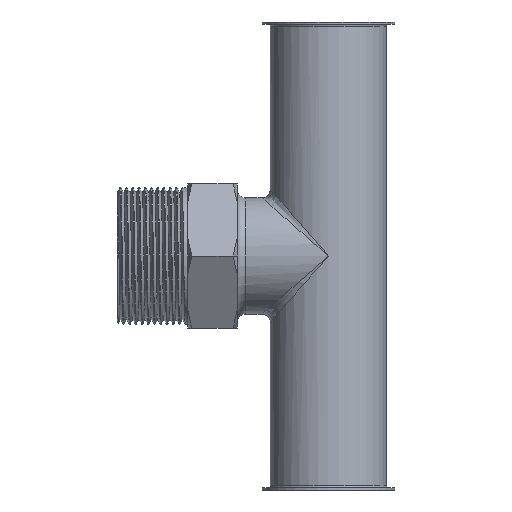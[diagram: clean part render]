
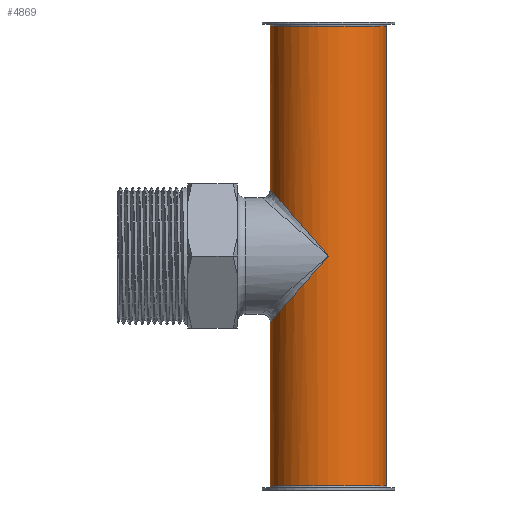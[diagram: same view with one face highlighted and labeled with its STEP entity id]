
A CAD part, front view. The second image highlights one B-rep face of the part: STEP entity #4869.
In plain terms, the highlighted cylindrical face has radius 14.01 mm (diameter 28.02 mm), a partial arc.
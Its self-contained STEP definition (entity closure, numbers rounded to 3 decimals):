
#48 = EDGE_CURVE ( 'NONE', #2402, #4963, #1961, .T. ) ;
#86 = EDGE_CURVE ( 'NONE', #525, #806, #3972, .T. ) ;
#427 = VERTEX_POINT ( 'NONE', #2119 ) ;
#429 = CARTESIAN_POINT ( 'NONE',  ( 0., -14.01, 56.5 ) ) ;
#434 = DIRECTION ( 'NONE',  ( 0., 0., -1. ) ) ;
#489 = AXIS2_PLACEMENT_3D ( 'NONE', #675, #3451, #1074 ) ;
#525 = VERTEX_POINT ( 'NONE', #3833 ) ;
#567 = DIRECTION ( 'NONE',  ( 0., 0., -1. ) ) ;
#632 = ORIENTED_EDGE ( 'NONE', *, *, #86, .F. ) ;
#675 = CARTESIAN_POINT ( 'NONE',  ( 0., 0., 112. ) ) ;
#721 = CARTESIAN_POINT ( 'NONE',  ( 0., 0., 1. ) ) ;
#770 = VECTOR ( 'NONE', #434, 1000. ) ;
#806 = VERTEX_POINT ( 'NONE', #2679 ) ;
#813 = EDGE_CURVE ( 'NONE', #2698, #806, #1242, .T. ) ;
#828 = CARTESIAN_POINT ( 'NONE',  ( -8.207, -14.01, 47.122 ) ) ;
#895 = VECTOR ( 'NONE', #1215, 1000. ) ;
#974 = CIRCLE ( 'NONE', #489, 14.01 ) ;
#1074 = DIRECTION ( 'NONE',  ( -1., 0., 0. ) ) ;
#1128 = DIRECTION ( 'NONE',  ( 1., 0., 0. ) ) ;
#1215 = DIRECTION ( 'NONE',  ( 0., 0., -1. ) ) ;
#1242 = CIRCLE ( 'NONE', #2636, 14.01 ) ;
#1314 = ORIENTED_EDGE ( 'NONE', *, *, #3507, .T. ) ;
#1318 = EDGE_CURVE ( 'NONE', #427, #2698, #2358, .T. ) ;
#1392 = CARTESIAN_POINT ( 'NONE',  ( -14.01, 0., 1. ) ) ;
#1427 = ORIENTED_EDGE ( 'NONE', *, *, #813, .T. ) ;
#1557 = CARTESIAN_POINT ( 'NONE',  ( -14.01, 0., 72.51 ) ) ;
#1628 = CARTESIAN_POINT ( 'NONE',  ( 14.01, 0., 113. ) ) ;
#1656 = CARTESIAN_POINT ( 'NONE',  ( -14.01, 0., 40.49 ) ) ;
#1660 = CARTESIAN_POINT ( 'NONE',  ( -8.207, -14.01, 65.878 ) ) ;
#1885 = VERTEX_POINT ( 'NONE', #4837 ) ;
#1961 = LINE ( 'NONE', #3589, #895 ) ;
#2119 = CARTESIAN_POINT ( 'NONE',  ( -14.01, 0., 40.49 ) ) ;
#2147 = CARTESIAN_POINT ( 'NONE',  ( -14.01, 0., 113. ) ) ;
#2265 = EDGE_LOOP ( 'NONE', ( #632, #1314, #4386, #2290, #2867, #4587, #1427 ) ) ;
#2272 = VECTOR ( 'NONE', #567, 1000. ) ;
#2290 = ORIENTED_EDGE ( 'NONE', *, *, #5155, .T. ) ;
#2358 = LINE ( 'NONE', #2147, #2272 ) ;
#2402 = VERTEX_POINT ( 'NONE', #4021 ) ;
#2636 = AXIS2_PLACEMENT_3D ( 'NONE', #721, #3499, #1128 ) ;
#2679 = CARTESIAN_POINT ( 'NONE',  ( 14.01, 0., 1. ) ) ;
#2698 = VERTEX_POINT ( 'NONE', #1392 ) ;
#2819 = CARTESIAN_POINT ( 'NONE',  ( -14.01, 0., 72.51 ) ) ;
#2867 = ORIENTED_EDGE ( 'NONE', *, *, #3134, .T. ) ;
#3051 = FACE_OUTER_BOUND ( 'NONE', #2265, .T. ) ;
#3134 = EDGE_CURVE ( 'NONE', #1885, #427, #4017, .T. ) ;
#3224 = CARTESIAN_POINT ( 'NONE',  ( -14.01, -8.207, 72.51 ) ) ;
#3451 = DIRECTION ( 'NONE',  ( 0., 0., -1. ) ) ;
#3479 = DIRECTION ( 'NONE',  ( 0., 0., -1. ) ) ;
#3499 = DIRECTION ( 'NONE',  ( 0., 0., 1. ) ) ;
#3507 = EDGE_CURVE ( 'NONE', #525, #2402, #974, .T. ) ;
#3589 = CARTESIAN_POINT ( 'NONE',  ( -14.01, 0., 113. ) ) ;
#3710 = AXIS2_PLACEMENT_3D ( 'NONE', #4702, #3479, #4721 ) ;
#3833 = CARTESIAN_POINT ( 'NONE',  ( 14.01, 0., 112. ) ) ;
#3972 = LINE ( 'NONE', #1628, #770 ) ;
#4017 =( BOUNDED_CURVE ( )  B_SPLINE_CURVE ( 3, ( #429, #828, #4067, #1656 ),
 .UNSPECIFIED., .F., .F. ) 
 B_SPLINE_CURVE_WITH_KNOTS ( ( 4, 4 ),
 ( 4.712, 6.283 ),
 .UNSPECIFIED. ) 
 CURVE ( )  GEOMETRIC_REPRESENTATION_ITEM ( )  RATIONAL_B_SPLINE_CURVE ( ( 1., 0.805, 0.805, 1. ) ) 
 REPRESENTATION_ITEM ( '' )  );
#4021 = CARTESIAN_POINT ( 'NONE',  ( -14.01, 0., 112. ) ) ;
#4067 = CARTESIAN_POINT ( 'NONE',  ( -14.01, -8.207, 40.49 ) ) ;
#4386 = ORIENTED_EDGE ( 'NONE', *, *, #48, .T. ) ;
#4476 = CARTESIAN_POINT ( 'NONE',  ( 0., -14.01, 56.5 ) ) ;
#4587 = ORIENTED_EDGE ( 'NONE', *, *, #1318, .T. ) ;
#4618 =( BOUNDED_CURVE ( )  B_SPLINE_CURVE ( 3, ( #2819, #3224, #1660, #4476 ),
 .UNSPECIFIED., .F., .F. ) 
 B_SPLINE_CURVE_WITH_KNOTS ( ( 4, 4 ),
 ( 3.142, 4.712 ),
 .UNSPECIFIED. ) 
 CURVE ( )  GEOMETRIC_REPRESENTATION_ITEM ( )  RATIONAL_B_SPLINE_CURVE ( ( 1., 0.805, 0.805, 1. ) ) 
 REPRESENTATION_ITEM ( '' )  );
#4702 = CARTESIAN_POINT ( 'NONE',  ( 0., 0., 113. ) ) ;
#4721 = DIRECTION ( 'NONE',  ( -1., 0., 0. ) ) ;
#4837 = CARTESIAN_POINT ( 'NONE',  ( 0., -14.01, 56.5 ) ) ;
#4869 = ADVANCED_FACE ( 'NONE', ( #3051 ), #4976, .T. ) ;
#4963 = VERTEX_POINT ( 'NONE', #1557 ) ;
#4976 = CYLINDRICAL_SURFACE ( 'NONE', #3710, 14.01 ) ;
#5155 = EDGE_CURVE ( 'NONE', #4963, #1885, #4618, .T. ) ;
